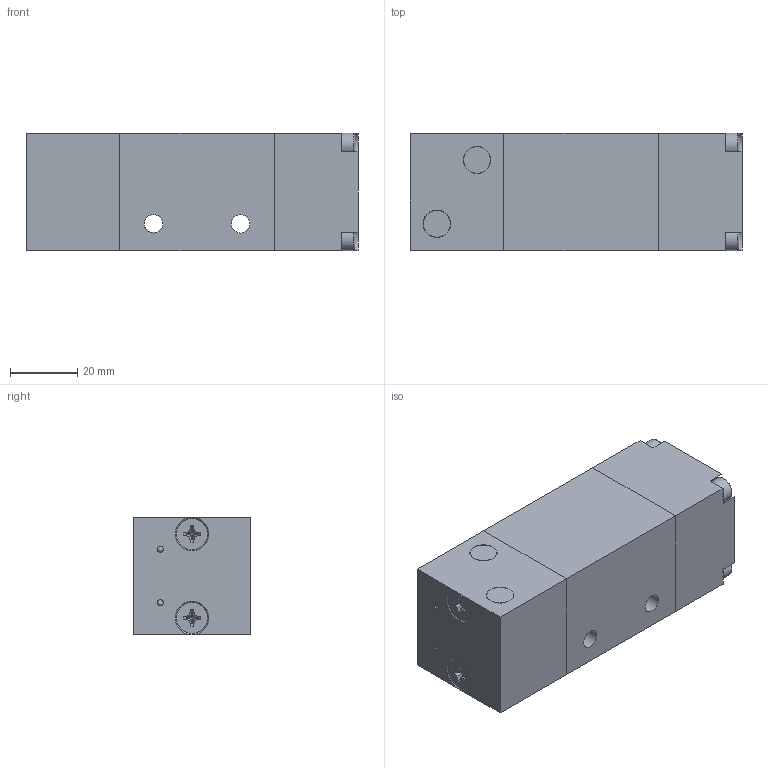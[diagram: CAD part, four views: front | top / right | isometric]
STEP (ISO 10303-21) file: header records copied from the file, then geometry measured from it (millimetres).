
FILE_DESCRIPTION(/* description */ ('Unknown'),/* implementation_level */ '2;1');
FILE_NAME(/* name */ 'KI 310 502',/* time_stamp */ '2024-03-27T10:22:47+01:00',/* author */ ('Unknown'),/* organization */ ('HAFNER Pneumatika Kft.'),/* preprocessor_version */ 'ST-DEVELOPER v18.102',/* originating_system */ 'Solid Edge',/* authorisation */ 'Unknown');
FILE_SCHEMA (('AUTOMOTIVE_DESIGN {1 0 10303 214 3 1 1}'));
Length unit declared in the file: millimetre
Products named in the file (2): KI 310 502
Assembly tree (1 placements, depth 2):
  KI 310 502
    KI 310 502
Bounding box: 99 x 35 x 35 mm (x, y, z)
Surface area: 19916.9 mm2
Topology: 2 solids, 17 shells, 205 faces, 578 edges, 377 vertices
Faces by surface type: plane 112, cone 43, cylinder 32, bspline 12, torus 4, sphere 2
Full cylindrical faces by diameter (mm): 1.85 x4, 5.5 x2, 7 x4, 8 x4, 8.566 x10, 9.3 x2, 12 x2
Entity records: 7311 total; most frequent: CARTESIAN_POINT 1953, DIRECTION 915, ORIENTED_EDGE 874, EDGE_CURVE 486, VERTEX_POINT 343, LINE 305, VECTOR 305, AXIS2_PLACEMENT_3D 305
